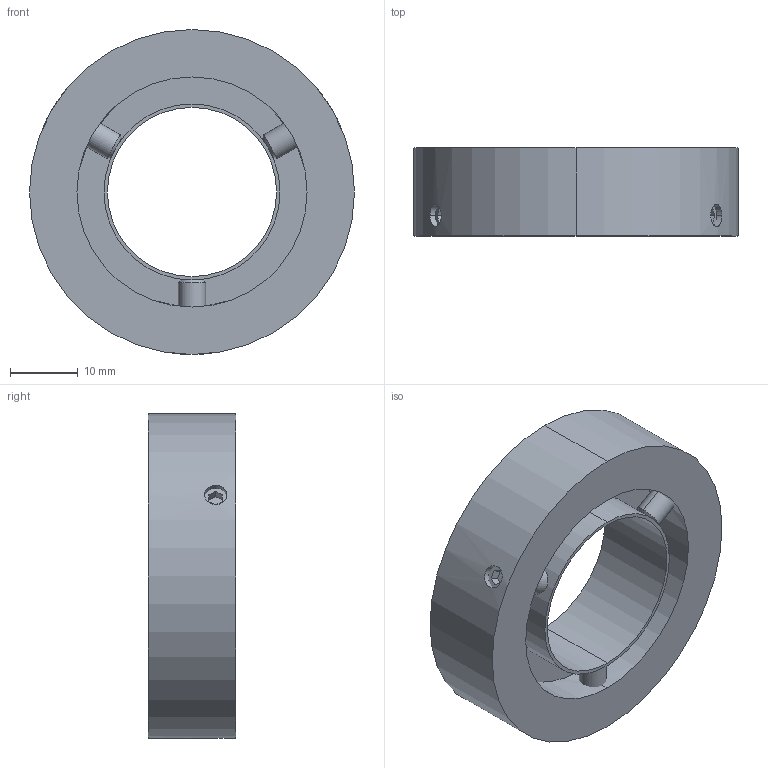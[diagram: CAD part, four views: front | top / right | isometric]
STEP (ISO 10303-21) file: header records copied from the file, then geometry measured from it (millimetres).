
FILE_DESCRIPTION (( 'STEP AP214' ), '1' );
FILE_NAME ('MN02357D02_00.STEP', '2024-03-08T08:57:44', ( '' ), ( '' ), 'SwSTEP 2.0', 'SolidWorks 2022', '' );
FILE_SCHEMA (( 'AUTOMOTIVE_DESIGN' ));
Length unit declared in the file: millimetre
Products named in the file (1): MN02357D02_00
Bounding box: 48 x 13 x 48 mm (x, y, z)
Volume: 14511.4 mm3; surface area: 10991.9 mm2
Topology: 5 solids, 5 shells, 86 faces, 190 edges, 120 vertices
Faces by surface type: plane 36, cylinder 30, cone 12, torus 8
Entity records: 3696 total; most frequent: CARTESIAN_POINT 719, DIRECTION 424, ORIENTED_EDGE 380, EDGE_CURVE 190, AXIS2_PLACEMENT_3D 163, VERTEX_POINT 120, EDGE_LOOP 102, LINE 98
